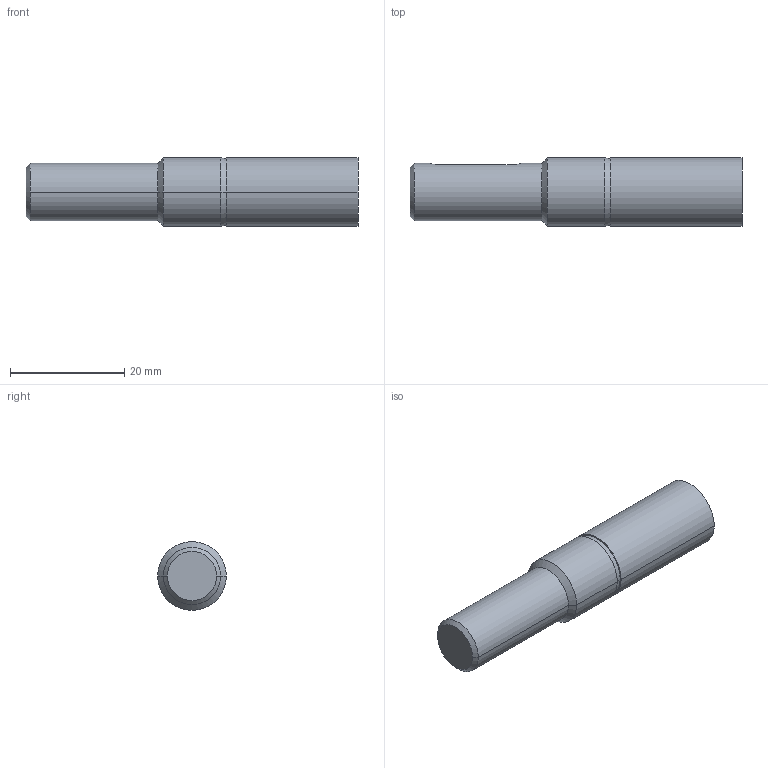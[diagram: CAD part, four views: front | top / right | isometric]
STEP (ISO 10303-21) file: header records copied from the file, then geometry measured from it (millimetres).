
FILE_DESCRIPTION (( 'STEP AP203' ), '1' );
FILE_NAME ('S2-12.STEP', '2002-08-16T10:48:43', ( '.' ), ( '.' ), 'SwSTEP 2.0', 'SolidWorks 2001340', '' );
FILE_SCHEMA (( 'CONFIG_CONTROL_DESIGN' ));
Length unit declared in the file: millimetre
Products named in the file (1): S2-12
Bounding box: 58 x 12 x 12 mm (x, y, z)
Volume: 5655.5 mm3; surface area: 2297.3 mm2
Topology: 1 solids, 1 shells, 20 faces, 43 edges, 26 vertices
Faces by surface type: cylinder 8, plane 6, cone 6
Entity records: 664 total; most frequent: CARTESIAN_POINT 144, DIRECTION 99, ORIENTED_EDGE 86, EDGE_CURVE 43, AXIS2_PLACEMENT_3D 39, VERTEX_POINT 26, EDGE_LOOP 21, LINE 21
